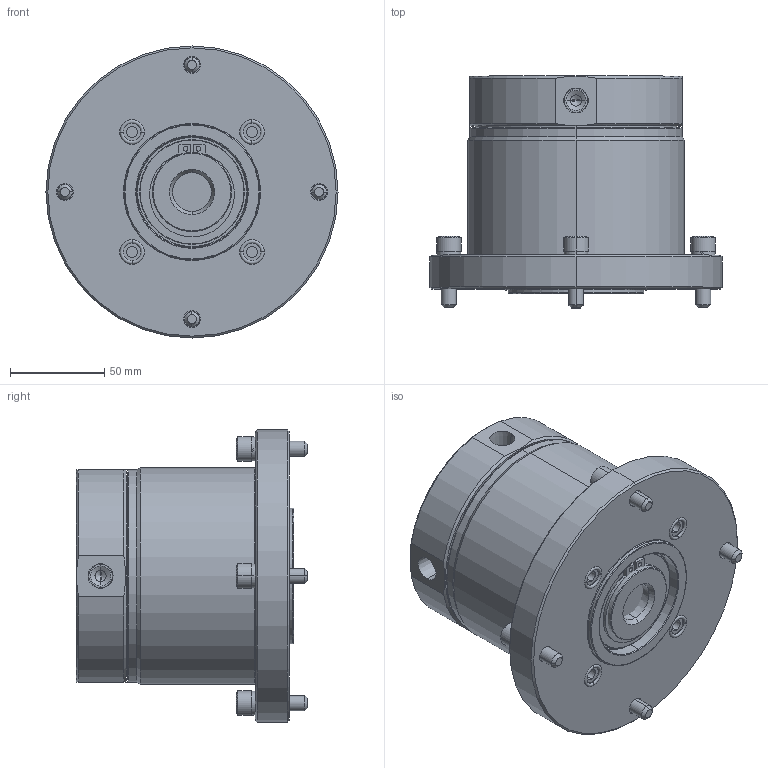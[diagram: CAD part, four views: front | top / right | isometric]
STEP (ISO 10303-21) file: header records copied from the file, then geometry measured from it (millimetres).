
FILE_DESCRIPTION (( 'STEP AP203' ), '1' );
FILE_NAME ('JRB0410-S-G-S.STEP', '2011-03-14T02:39:38', ( ' ' ), ( '' ), 'SwSTEP 2.0', 'SolidWorks 2010', '' );
FILE_SCHEMA (( 'CONFIG_CONTROL_DESIGN' ));
Length unit declared in the file: millimetre
Products named in the file (8): 曽宍兽然轤M8; JRBトメワ受け; STW-42; JRB0410-S-G-S; JRB0410ハウジング; JRB0410シャフト; 6妏寠晅无倌_M8_30; 1BP10（ｶﾞｽｹｯﾄ）
Assembly tree (16 placements, depth 2):
  JRB0410-S-G-S
    6妏寠晅无倌_M8_30  x4
    JRB0410ハウジング
    曽宍兽然轤M8  x4
    JRB0410シャフト
    1BP10（ｶﾞｽｹｯﾄ）  x4
    JRBトメワ受け
    STW-42
Bounding box: 155 x 123 x 155 mm (x, y, z)
Volume: 1434762.8 mm3; surface area: 140509.6 mm2
Topology: 16 solids, 16 shells, 392 faces, 814 edges, 462 vertices
Faces by surface type: cylinder 134, plane 118, cone 110, torus 30
Entity records: 8156 total; most frequent: DIRECTION 1376, CARTESIAN_POINT 1291, ORIENTED_EDGE 1076, AXIS2_PLACEMENT_3D 584, EDGE_CURVE 538, VERTEX_POINT 327, CIRCLE 308, EDGE_LOOP 307
